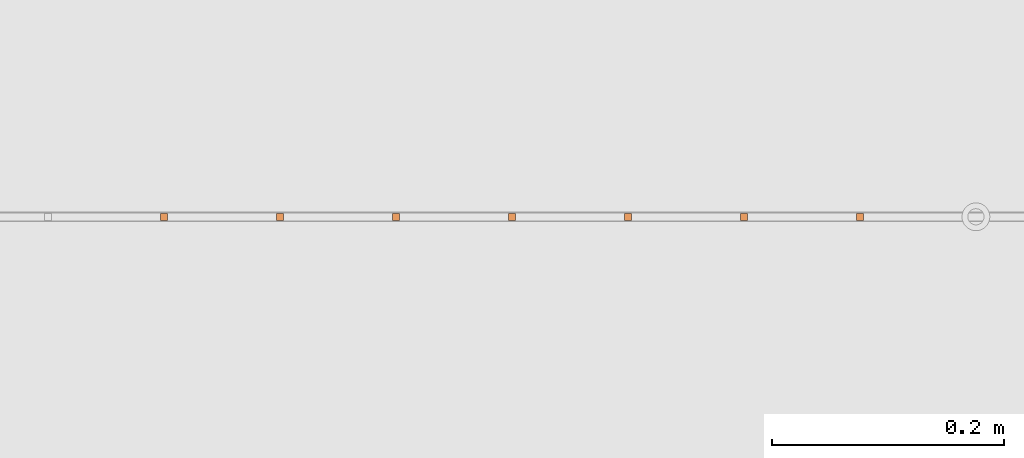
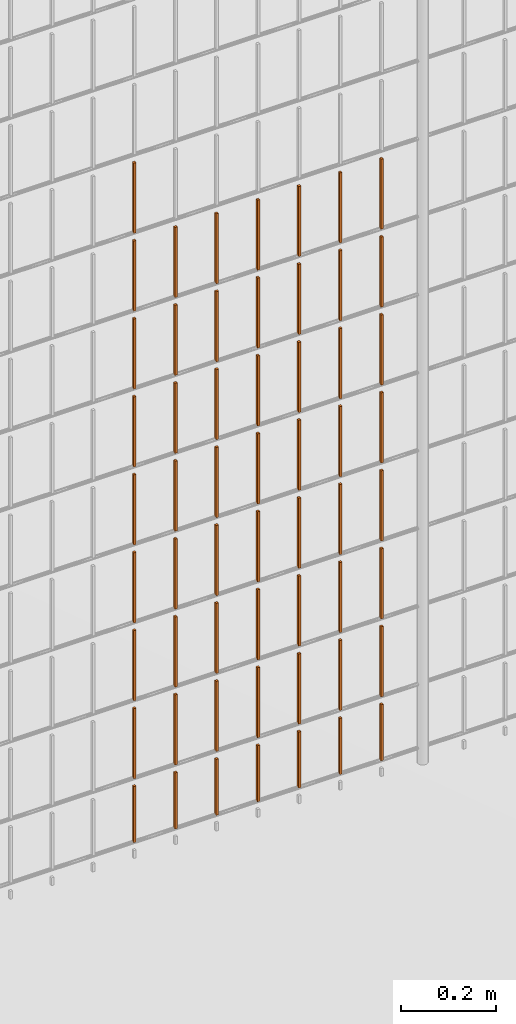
# One storey, part 245 of 1809: 57 proxies, 1 element without a shape of its own.
"""IFC2X3 building model written with IfcOpenShell, lengths in millimetres."""

from ifc_helpers import new_model, entity, si_unit, converted_unit, derived_unit, money_unit, direction, frame, origin_with_axes, place, context, subcontext, project, spatial, faceted_brep, source, transform, mapped, material, type_object, element, aggregate, save


model = new_model("IFC2X3")

# Units and contexts
model_context = context("Model", 3, precision=0.01, world=origin_with_axes(), true_north=direction((0.0, 1.0)))
body_context = subcontext(model_context, "Body", "Model", "MODEL_VIEW")
ifc_project = project(units=[si_unit("LENGTHUNIT", "METRE", prefix="MILLI"), si_unit("AREAUNIT", "SQUARE_METRE"), si_unit("VOLUMEUNIT", "CUBIC_METRE"), converted_unit("PLANEANGLEUNIT", "DEGREE", entity("IfcPlaneAngleMeasure", 0.0174532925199), si_unit("PLANEANGLEUNIT", "RADIAN"), dimensions=[0, 0, 0, 0, 0, 0, 0]), si_unit("SOLIDANGLEUNIT", "STERADIAN"), money_unit("EUR"), converted_unit("TIMEUNIT", "Year", entity("IfcTimeMeasure", 31556926.0), si_unit("TIMEUNIT", "SECOND"), dimensions=[0, 0, 1, 0, 0, 0, 0]), si_unit("MASSUNIT", "GRAM", prefix="KILO"), si_unit("THERMODYNAMICTEMPERATUREUNIT", "DEGREE_CELSIUS"), si_unit("LUMINOUSINTENSITYUNIT", "LUMEN"), si_unit("ENERGYUNIT", "JOULE", prefix="MEGA"), derived_unit("THERMALCONDUCTANCEUNIT", [(si_unit("POWERUNIT", "WATT"), 1), (si_unit("LENGTHUNIT", "METRE"), -1), (si_unit("THERMODYNAMICTEMPERATUREUNIT", "KELVIN"), -1)]), derived_unit("SPECIFICHEATCAPACITYUNIT", [(si_unit("ENERGYUNIT", "JOULE"), 1), (si_unit("MASSUNIT", "GRAM", prefix="KILO"), -1), (si_unit("THERMODYNAMICTEMPERATUREUNIT", "KELVIN"), -1)]), derived_unit("MASSDENSITYUNIT", [(si_unit("MASSUNIT", "GRAM", prefix="KILO"), 1), (si_unit("VOLUMEUNIT", "CUBIC_METRE"), -1)])], contexts=[model_context])

# Site, building, storey
site_placement = place(None, origin_with_axes())
site = spatial("IfcSite", under=ifc_project, at=site_placement, Name="Politse- ja Piirivalveameti ning Päästeameti ühishoone", CompositionType="ELEMENT")
building_placement = place(site_placement, origin_with_axes())
building = spatial("IfcBuilding", under=site, at=building_placement, Name="Politse- ja Piirivalveameti ning Päästeameti ühishoone", CompositionType="ELEMENT")
storey_placement = place(building_placement, origin_with_axes())
storey = spatial("IfcBuildingStorey", under=building, at=storey_placement, Name="Esimene korrus", CompositionType="ELEMENT", Elevation=0.0)

# Proxies
building_element_proxy_type_1 = type_object("IfcBuildingElementProxyType", Name="Railing Type", PredefinedType="NOTDEFINED")
proxy_1_placement = place(storey_placement, frame((-16775.8601056, 25156.7555964, 0.0), z_axis=(0.0, 0.0, 1.0), x_axis=(1.0, 0.0, 0.0)))
proxy_1 = element("IfcBuildingElementProxy", 1, at=proxy_1_placement, inside=storey, type_object=building_element_proxy_type_1, Name="KENNELI PIIRE")
ifc_material = material(Name="Teras - Konstruktsioon")
building_element_proxy_type_2 = type_object("IfcBuildingElementProxyType", Name="IfcBuildingElementProxy", PredefinedType="NOTDEFINED")
shared_shape_1 = source(origin_with_axes(), body_context, "Body", "Brep", [
    faceted_brep([(3.0, 3.0, 0.0), (-3.0, 3.0, 0.0), (-3.0, 3.0, 180.000012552), (3.0, 3.0, 180.000012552), (3.0, -3.0, 0.0), (-3.0, -3.0, 0.0), (-3.0, -3.0, 180.000012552), (3.0, -3.0, 180.000012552)], [[[0, 1, 2, 3]], [[0, 4, 5, 1]], [[1, 5, 6, 2]], [[3, 2, 6, 7]], [[4, 0, 3, 7]], [[5, 4, 7, 6]]]),
])
proxy_2_placement = place(proxy_1_placement, frame((-3082.26655065, -16068.8402798, 403.999987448), z_axis=(0.0, 0.0, 1.0), x_axis=(1.0, 0.0, 0.0)))
proxy_2 = element("IfcBuildingElementProxy", 2, at=proxy_2_placement, type_object=building_element_proxy_type_2, material=ifc_material, Name="BALUSTER - 001", context=body_context, shape_type="MappedRepresentation", body=[
    mapped(shared_shape_1, transform((0.0, 0.0, 0.0), x_axis=(0.0, -1.0, 0.0), y_axis=(1.0, 0.0, 0.0), z_axis=(0.0, 0.0, 1.0))),
])
proxy_3_placement = place(proxy_1_placement, frame((-2982.26655065, -16068.8402798, 403.999987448), z_axis=(0.0, 0.0, 1.0), x_axis=(1.0, 0.0, 0.0)))
proxy_3 = element("IfcBuildingElementProxy", 3, at=proxy_3_placement, type_object=building_element_proxy_type_2, material=ifc_material, Name="BALUSTER - 001", context=body_context, shape_type="MappedRepresentation", body=[
    mapped(shared_shape_1, transform((0.0, 0.0, 0.0), x_axis=(0.0, -1.0, 0.0), y_axis=(1.0, 0.0, 0.0), z_axis=(0.0, 0.0, 1.0))),
])
proxy_4_placement = place(proxy_1_placement, frame((-2882.26655065, -16068.8402798, 403.999987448), z_axis=(0.0, 0.0, 1.0), x_axis=(1.0, 0.0, 0.0)))
proxy_4 = element("IfcBuildingElementProxy", 4, at=proxy_4_placement, type_object=building_element_proxy_type_2, material=ifc_material, Name="BALUSTER - 001", context=body_context, shape_type="MappedRepresentation", body=[
    mapped(shared_shape_1, transform((0.0, 0.0, 0.0), x_axis=(0.0, -1.0, 0.0), y_axis=(1.0, 0.0, 0.0), z_axis=(0.0, 0.0, 1.0))),
])
proxy_5_placement = place(proxy_1_placement, frame((-2782.26655065, -16068.8402798, 403.999987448), z_axis=(0.0, 0.0, 1.0), x_axis=(1.0, 0.0, 0.0)))
proxy_5 = element("IfcBuildingElementProxy", 5, at=proxy_5_placement, type_object=building_element_proxy_type_2, material=ifc_material, Name="BALUSTER - 001", context=body_context, shape_type="MappedRepresentation", body=[
    mapped(shared_shape_1, transform((0.0, 0.0, 0.0), x_axis=(0.0, -1.0, 0.0), y_axis=(1.0, 0.0, 0.0), z_axis=(0.0, 0.0, 1.0))),
])
proxy_6_placement = place(proxy_1_placement, frame((-2682.26655065, -16068.8402798, 403.999987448), z_axis=(0.0, 0.0, 1.0), x_axis=(1.0, 0.0, 0.0)))
proxy_6 = element("IfcBuildingElementProxy", 6, at=proxy_6_placement, type_object=building_element_proxy_type_2, material=ifc_material, Name="BALUSTER - 001", context=body_context, shape_type="MappedRepresentation", body=[
    mapped(shared_shape_1, transform((0.0, 0.0, 0.0), x_axis=(0.0, -1.0, 0.0), y_axis=(1.0, 0.0, 0.0), z_axis=(0.0, 0.0, 1.0))),
])
proxy_7_placement = place(proxy_1_placement, frame((-2582.26655065, -16068.8402798, 403.999987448), z_axis=(0.0, 0.0, 1.0), x_axis=(1.0, 0.0, 0.0)))
proxy_7 = element("IfcBuildingElementProxy", 7, at=proxy_7_placement, type_object=building_element_proxy_type_2, material=ifc_material, Name="BALUSTER - 001", context=body_context, shape_type="MappedRepresentation", body=[
    mapped(shared_shape_1, transform((0.0, 0.0, 0.0), x_axis=(0.0, -1.0, 0.0), y_axis=(1.0, 0.0, 0.0), z_axis=(0.0, 0.0, 1.0))),
])
proxy_8_placement = place(proxy_1_placement, frame((-2482.26655065, -16068.8402798, 403.999987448), z_axis=(0.0, 0.0, 1.0), x_axis=(1.0, 0.0, 0.0)))
proxy_8 = element("IfcBuildingElementProxy", 8, at=proxy_8_placement, type_object=building_element_proxy_type_2, material=ifc_material, Name="BALUSTER - 001", context=body_context, shape_type="MappedRepresentation", body=[
    mapped(shared_shape_1, transform((0.0, 0.0, 0.0), x_axis=(0.0, -1.0, 0.0), y_axis=(1.0, 0.0, 0.0), z_axis=(0.0, 0.0, 1.0))),
])
proxy_9_placement = place(proxy_1_placement, frame((-3082.26655065, -16068.8402798, 803.999987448), z_axis=(0.0, 0.0, 1.0), x_axis=(1.0, 0.0, 0.0)))
proxy_9 = element("IfcBuildingElementProxy", 9, at=proxy_9_placement, type_object=building_element_proxy_type_2, material=ifc_material, Name="BALUSTER - 001", context=body_context, shape_type="MappedRepresentation", body=[
    mapped(shared_shape_1, transform((0.0, 0.0, 0.0), x_axis=(0.0, -1.0, 0.0), y_axis=(1.0, 0.0, 0.0), z_axis=(0.0, 0.0, 1.0))),
])
proxy_10_placement = place(proxy_1_placement, frame((-2982.26655065, -16068.8402798, 803.999987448), z_axis=(0.0, 0.0, 1.0), x_axis=(1.0, 0.0, 0.0)))
proxy_10 = element("IfcBuildingElementProxy", 10, at=proxy_10_placement, type_object=building_element_proxy_type_2, material=ifc_material, Name="BALUSTER - 001", context=body_context, shape_type="MappedRepresentation", body=[
    mapped(shared_shape_1, transform((0.0, 0.0, 0.0), x_axis=(0.0, -1.0, 0.0), y_axis=(1.0, 0.0, 0.0), z_axis=(0.0, 0.0, 1.0))),
])
proxy_11_placement = place(proxy_1_placement, frame((-2882.26655065, -16068.8402798, 803.999987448), z_axis=(0.0, 0.0, 1.0), x_axis=(1.0, 0.0, 0.0)))
proxy_11 = element("IfcBuildingElementProxy", 11, at=proxy_11_placement, type_object=building_element_proxy_type_2, material=ifc_material, Name="BALUSTER - 001", context=body_context, shape_type="MappedRepresentation", body=[
    mapped(shared_shape_1, transform((0.0, 0.0, 0.0), x_axis=(0.0, -1.0, 0.0), y_axis=(1.0, 0.0, 0.0), z_axis=(0.0, 0.0, 1.0))),
])
proxy_12_placement = place(proxy_1_placement, frame((-2782.26655065, -16068.8402798, 803.999987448), z_axis=(0.0, 0.0, 1.0), x_axis=(1.0, 0.0, 0.0)))
proxy_12 = element("IfcBuildingElementProxy", 12, at=proxy_12_placement, type_object=building_element_proxy_type_2, material=ifc_material, Name="BALUSTER - 001", context=body_context, shape_type="MappedRepresentation", body=[
    mapped(shared_shape_1, transform((0.0, 0.0, 0.0), x_axis=(0.0, -1.0, 0.0), y_axis=(1.0, 0.0, 0.0), z_axis=(0.0, 0.0, 1.0))),
])
proxy_13_placement = place(proxy_1_placement, frame((-2682.26655065, -16068.8402798, 803.999987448), z_axis=(0.0, 0.0, 1.0), x_axis=(1.0, 0.0, 0.0)))
proxy_13 = element("IfcBuildingElementProxy", 13, at=proxy_13_placement, type_object=building_element_proxy_type_2, material=ifc_material, Name="BALUSTER - 001", context=body_context, shape_type="MappedRepresentation", body=[
    mapped(shared_shape_1, transform((0.0, 0.0, 0.0), x_axis=(0.0, -1.0, 0.0), y_axis=(1.0, 0.0, 0.0), z_axis=(0.0, 0.0, 1.0))),
])
proxy_14_placement = place(proxy_1_placement, frame((-2582.26655065, -16068.8402798, 803.999987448), z_axis=(0.0, 0.0, 1.0), x_axis=(1.0, 0.0, 0.0)))
proxy_14 = element("IfcBuildingElementProxy", 14, at=proxy_14_placement, type_object=building_element_proxy_type_2, material=ifc_material, Name="BALUSTER - 001", context=body_context, shape_type="MappedRepresentation", body=[
    mapped(shared_shape_1, transform((0.0, 0.0, 0.0), x_axis=(0.0, -1.0, 0.0), y_axis=(1.0, 0.0, 0.0), z_axis=(0.0, 0.0, 1.0))),
])
proxy_15_placement = place(proxy_1_placement, frame((-2482.26655065, -16068.8402798, 803.999987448), z_axis=(0.0, 0.0, 1.0), x_axis=(1.0, 0.0, 0.0)))
proxy_15 = element("IfcBuildingElementProxy", 15, at=proxy_15_placement, type_object=building_element_proxy_type_2, material=ifc_material, Name="BALUSTER - 001", context=body_context, shape_type="MappedRepresentation", body=[
    mapped(shared_shape_1, transform((0.0, 0.0, 0.0), x_axis=(0.0, -1.0, 0.0), y_axis=(1.0, 0.0, 0.0), z_axis=(0.0, 0.0, 1.0))),
])
proxy_16_placement = place(proxy_1_placement, frame((-3082.26655065, -16068.8402798, 1003.99998745), z_axis=(0.0, 0.0, 1.0), x_axis=(1.0, 0.0, 0.0)))
proxy_16 = element("IfcBuildingElementProxy", 16, at=proxy_16_placement, type_object=building_element_proxy_type_2, material=ifc_material, Name="BALUSTER - 001", context=body_context, shape_type="MappedRepresentation", body=[
    mapped(shared_shape_1, transform((0.0, 0.0, 0.0), x_axis=(0.0, -1.0, 0.0), y_axis=(1.0, 0.0, 0.0), z_axis=(0.0, 0.0, 1.0))),
])
proxy_17_placement = place(proxy_1_placement, frame((-2982.26655065, -16068.8402798, 1003.99998745), z_axis=(0.0, 0.0, 1.0), x_axis=(1.0, 0.0, 0.0)))
proxy_17 = element("IfcBuildingElementProxy", 17, at=proxy_17_placement, type_object=building_element_proxy_type_2, material=ifc_material, Name="BALUSTER - 001", context=body_context, shape_type="MappedRepresentation", body=[
    mapped(shared_shape_1, transform((0.0, 0.0, 0.0), x_axis=(0.0, -1.0, 0.0), y_axis=(1.0, 0.0, 0.0), z_axis=(0.0, 0.0, 1.0))),
])
proxy_18_placement = place(proxy_1_placement, frame((-2882.26655065, -16068.8402798, 1003.99998745), z_axis=(0.0, 0.0, 1.0), x_axis=(1.0, 0.0, 0.0)))
proxy_18 = element("IfcBuildingElementProxy", 18, at=proxy_18_placement, type_object=building_element_proxy_type_2, material=ifc_material, Name="BALUSTER - 001", context=body_context, shape_type="MappedRepresentation", body=[
    mapped(shared_shape_1, transform((0.0, 0.0, 0.0), x_axis=(0.0, -1.0, 0.0), y_axis=(1.0, 0.0, 0.0), z_axis=(0.0, 0.0, 1.0))),
])
proxy_19_placement = place(proxy_1_placement, frame((-2782.26655065, -16068.8402798, 1003.99998745), z_axis=(0.0, 0.0, 1.0), x_axis=(1.0, 0.0, 0.0)))
proxy_19 = element("IfcBuildingElementProxy", 19, at=proxy_19_placement, type_object=building_element_proxy_type_2, material=ifc_material, Name="BALUSTER - 001", context=body_context, shape_type="MappedRepresentation", body=[
    mapped(shared_shape_1, transform((0.0, 0.0, 0.0), x_axis=(0.0, -1.0, 0.0), y_axis=(1.0, 0.0, 0.0), z_axis=(0.0, 0.0, 1.0))),
])
proxy_20_placement = place(proxy_1_placement, frame((-2682.26655065, -16068.8402798, 1003.99998745), z_axis=(0.0, 0.0, 1.0), x_axis=(1.0, 0.0, 0.0)))
proxy_20 = element("IfcBuildingElementProxy", 20, at=proxy_20_placement, type_object=building_element_proxy_type_2, material=ifc_material, Name="BALUSTER - 001", context=body_context, shape_type="MappedRepresentation", body=[
    mapped(shared_shape_1, transform((0.0, 0.0, 0.0), x_axis=(0.0, -1.0, 0.0), y_axis=(1.0, 0.0, 0.0), z_axis=(0.0, 0.0, 1.0))),
])
proxy_21_placement = place(proxy_1_placement, frame((-2582.26655065, -16068.8402798, 1003.99998745), z_axis=(0.0, 0.0, 1.0), x_axis=(1.0, 0.0, 0.0)))
proxy_21 = element("IfcBuildingElementProxy", 21, at=proxy_21_placement, type_object=building_element_proxy_type_2, material=ifc_material, Name="BALUSTER - 001", context=body_context, shape_type="MappedRepresentation", body=[
    mapped(shared_shape_1, transform((0.0, 0.0, 0.0), x_axis=(0.0, -1.0, 0.0), y_axis=(1.0, 0.0, 0.0), z_axis=(0.0, 0.0, 1.0))),
])
proxy_22_placement = place(proxy_1_placement, frame((-2482.26655065, -16068.8402798, 1003.99998745), z_axis=(0.0, 0.0, 1.0), x_axis=(1.0, 0.0, 0.0)))
proxy_22 = element("IfcBuildingElementProxy", 22, at=proxy_22_placement, type_object=building_element_proxy_type_2, material=ifc_material, Name="BALUSTER - 001", context=body_context, shape_type="MappedRepresentation", body=[
    mapped(shared_shape_1, transform((0.0, 0.0, 0.0), x_axis=(0.0, -1.0, 0.0), y_axis=(1.0, 0.0, 0.0), z_axis=(0.0, 0.0, 1.0))),
])
shared_shape_2 = source(origin_with_axes(), body_context, "Body", "Brep", [
    faceted_brep([(3.0, 3.0, 0.0), (-3.0, 3.0, 0.0), (-3.0, 3.0, 144.000012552), (3.0, 3.0, 144.000012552), (3.0, -3.0, 0.0), (-3.0, -3.0, 0.0), (-3.0, -3.0, 144.000012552), (3.0, -3.0, 144.000012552)], [[[0, 1, 2, 3]], [[0, 4, 5, 1]], [[1, 5, 6, 2]], [[3, 2, 6, 7]], [[4, 0, 3, 7]], [[5, 4, 7, 6]]]),
])
proxy_23_placement = place(proxy_1_placement, frame((-3082.26655065, -16068.8402798, 39.9999874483), z_axis=(0.0, 0.0, 1.0), x_axis=(1.0, 0.0, 0.0)))
proxy_23 = element("IfcBuildingElementProxy", 23, at=proxy_23_placement, type_object=building_element_proxy_type_2, material=ifc_material, Name="BALUSTER - 001", context=body_context, shape_type="MappedRepresentation", body=[
    mapped(shared_shape_2, transform((0.0, 0.0, 0.0), x_axis=(0.0, -1.0, 0.0), y_axis=(1.0, 0.0, 0.0), z_axis=(0.0, 0.0, 1.0))),
])
proxy_24_placement = place(proxy_1_placement, frame((-2982.26655065, -16068.8402798, 39.9999874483), z_axis=(0.0, 0.0, 1.0), x_axis=(1.0, 0.0, 0.0)))
proxy_24 = element("IfcBuildingElementProxy", 24, at=proxy_24_placement, type_object=building_element_proxy_type_2, material=ifc_material, Name="BALUSTER - 001", context=body_context, shape_type="MappedRepresentation", body=[
    mapped(shared_shape_2, transform((0.0, 0.0, 0.0), x_axis=(0.0, -1.0, 0.0), y_axis=(1.0, 0.0, 0.0), z_axis=(0.0, 0.0, 1.0))),
])
proxy_25_placement = place(proxy_1_placement, frame((-2882.26655065, -16068.8402798, 39.9999874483), z_axis=(0.0, 0.0, 1.0), x_axis=(1.0, 0.0, 0.0)))
proxy_25 = element("IfcBuildingElementProxy", 25, at=proxy_25_placement, type_object=building_element_proxy_type_2, material=ifc_material, Name="BALUSTER - 001", context=body_context, shape_type="MappedRepresentation", body=[
    mapped(shared_shape_2, transform((0.0, 0.0, 0.0), x_axis=(0.0, -1.0, 0.0), y_axis=(1.0, 0.0, 0.0), z_axis=(0.0, 0.0, 1.0))),
])
proxy_26_placement = place(proxy_1_placement, frame((-2782.26655065, -16068.8402798, 39.9999874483), z_axis=(0.0, 0.0, 1.0), x_axis=(1.0, 0.0, 0.0)))
proxy_26 = element("IfcBuildingElementProxy", 26, at=proxy_26_placement, type_object=building_element_proxy_type_2, material=ifc_material, Name="BALUSTER - 001", context=body_context, shape_type="MappedRepresentation", body=[
    mapped(shared_shape_2, transform((0.0, 0.0, 0.0), x_axis=(0.0, -1.0, 0.0), y_axis=(1.0, 0.0, 0.0), z_axis=(0.0, 0.0, 1.0))),
])
proxy_27_placement = place(proxy_1_placement, frame((-2682.26655065, -16068.8402798, 39.9999874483), z_axis=(0.0, 0.0, 1.0), x_axis=(1.0, 0.0, 0.0)))
proxy_27 = element("IfcBuildingElementProxy", 27, at=proxy_27_placement, type_object=building_element_proxy_type_2, material=ifc_material, Name="BALUSTER - 001", context=body_context, shape_type="MappedRepresentation", body=[
    mapped(shared_shape_2, transform((0.0, 0.0, 0.0), x_axis=(0.0, -1.0, 0.0), y_axis=(1.0, 0.0, 0.0), z_axis=(0.0, 0.0, 1.0))),
])
proxy_28_placement = place(proxy_1_placement, frame((-2582.26655065, -16068.8402798, 39.9999874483), z_axis=(0.0, 0.0, 1.0), x_axis=(1.0, 0.0, 0.0)))
proxy_28 = element("IfcBuildingElementProxy", 28, at=proxy_28_placement, type_object=building_element_proxy_type_2, material=ifc_material, Name="BALUSTER - 001", context=body_context, shape_type="MappedRepresentation", body=[
    mapped(shared_shape_2, transform((0.0, 0.0, 0.0), x_axis=(0.0, -1.0, 0.0), y_axis=(1.0, 0.0, 0.0), z_axis=(0.0, 0.0, 1.0))),
])
proxy_29_placement = place(proxy_1_placement, frame((-2482.26655065, -16068.8402798, 39.9999874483), z_axis=(0.0, 0.0, 1.0), x_axis=(1.0, 0.0, 0.0)))
proxy_29 = element("IfcBuildingElementProxy", 29, at=proxy_29_placement, type_object=building_element_proxy_type_2, material=ifc_material, Name="BALUSTER - 001", context=body_context, shape_type="MappedRepresentation", body=[
    mapped(shared_shape_2, transform((0.0, 0.0, 0.0), x_axis=(0.0, -1.0, 0.0), y_axis=(1.0, 0.0, 0.0), z_axis=(0.0, 0.0, 1.0))),
])
shared_shape_3 = source(origin_with_axes(), body_context, "Body", "Brep", [
    faceted_brep([(3.0, 3.0, 0.0), (-3.0, 3.0, 0.0), (-3.0, 3.0, 180.000012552), (3.0, 3.0, 180.000012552), (3.0, -3.0, 0.0), (-3.0, -3.0, 0.0), (-3.0, -3.0, 180.000012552), (3.0, -3.0, 180.000012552)], [[[0, 1, 2, 3]], [[0, 4, 5, 1]], [[1, 5, 6, 2]], [[3, 2, 6, 7]], [[4, 0, 3, 7]], [[5, 4, 7, 6]]]),
])
proxy_30_placement = place(proxy_1_placement, frame((-3082.26655065, -16068.8402798, 1403.99998745), z_axis=(0.0, 0.0, 1.0), x_axis=(1.0, 0.0, 0.0)))
proxy_30 = element("IfcBuildingElementProxy", 30, at=proxy_30_placement, type_object=building_element_proxy_type_2, material=ifc_material, Name="BALUSTER - 001", context=body_context, shape_type="MappedRepresentation", body=[
    mapped(shared_shape_3, transform((0.0, 0.0, 0.0), x_axis=(0.0, -1.0, 0.0), y_axis=(1.0, 0.0, 0.0), z_axis=(0.0, 0.0, 1.0))),
])
proxy_31_placement = place(proxy_1_placement, frame((-2982.26655065, -16068.8402798, 1403.99998745), z_axis=(0.0, 0.0, 1.0), x_axis=(1.0, 0.0, 0.0)))
proxy_31 = element("IfcBuildingElementProxy", 31, at=proxy_31_placement, type_object=building_element_proxy_type_2, material=ifc_material, Name="BALUSTER - 001", context=body_context, shape_type="MappedRepresentation", body=[
    mapped(shared_shape_3, transform((0.0, 0.0, 0.0), x_axis=(0.0, -1.0, 0.0), y_axis=(1.0, 0.0, 0.0), z_axis=(0.0, 0.0, 1.0))),
])
proxy_32_placement = place(proxy_1_placement, frame((-2882.26655065, -16068.8402798, 1403.99998745), z_axis=(0.0, 0.0, 1.0), x_axis=(1.0, 0.0, 0.0)))
proxy_32 = element("IfcBuildingElementProxy", 32, at=proxy_32_placement, type_object=building_element_proxy_type_2, material=ifc_material, Name="BALUSTER - 001", context=body_context, shape_type="MappedRepresentation", body=[
    mapped(shared_shape_3, transform((0.0, 0.0, 0.0), x_axis=(0.0, -1.0, 0.0), y_axis=(1.0, 0.0, 0.0), z_axis=(0.0, 0.0, 1.0))),
])
proxy_33_placement = place(proxy_1_placement, frame((-2782.26655065, -16068.8402798, 1403.99998745), z_axis=(0.0, 0.0, 1.0), x_axis=(1.0, 0.0, 0.0)))
proxy_33 = element("IfcBuildingElementProxy", 33, at=proxy_33_placement, type_object=building_element_proxy_type_2, material=ifc_material, Name="BALUSTER - 001", context=body_context, shape_type="MappedRepresentation", body=[
    mapped(shared_shape_3, transform((0.0, 0.0, 0.0), x_axis=(0.0, -1.0, 0.0), y_axis=(1.0, 0.0, 0.0), z_axis=(0.0, 0.0, 1.0))),
])
proxy_34_placement = place(proxy_1_placement, frame((-2682.26655065, -16068.8402798, 1403.99998745), z_axis=(0.0, 0.0, 1.0), x_axis=(1.0, 0.0, 0.0)))
proxy_34 = element("IfcBuildingElementProxy", 34, at=proxy_34_placement, type_object=building_element_proxy_type_2, material=ifc_material, Name="BALUSTER - 001", context=body_context, shape_type="MappedRepresentation", body=[
    mapped(shared_shape_3, transform((0.0, 0.0, 0.0), x_axis=(0.0, -1.0, 0.0), y_axis=(1.0, 0.0, 0.0), z_axis=(0.0, 0.0, 1.0))),
])
proxy_35_placement = place(proxy_1_placement, frame((-2582.26655065, -16068.8402798, 1403.99998745), z_axis=(0.0, 0.0, 1.0), x_axis=(1.0, 0.0, 0.0)))
proxy_35 = element("IfcBuildingElementProxy", 35, at=proxy_35_placement, type_object=building_element_proxy_type_2, material=ifc_material, Name="BALUSTER - 001", context=body_context, shape_type="MappedRepresentation", body=[
    mapped(shared_shape_3, transform((0.0, 0.0, 0.0), x_axis=(0.0, -1.0, 0.0), y_axis=(1.0, 0.0, 0.0), z_axis=(0.0, 0.0, 1.0))),
])
proxy_36_placement = place(proxy_1_placement, frame((-2482.26655065, -16068.8402798, 1403.99998745), z_axis=(0.0, 0.0, 1.0), x_axis=(1.0, 0.0, 0.0)))
proxy_36 = element("IfcBuildingElementProxy", 36, at=proxy_36_placement, type_object=building_element_proxy_type_2, material=ifc_material, Name="BALUSTER - 001", context=body_context, shape_type="MappedRepresentation", body=[
    mapped(shared_shape_3, transform((0.0, 0.0, 0.0), x_axis=(0.0, -1.0, 0.0), y_axis=(1.0, 0.0, 0.0), z_axis=(0.0, 0.0, 1.0))),
])
shared_shape_4 = source(origin_with_axes(), body_context, "Body", "Brep", [
    faceted_brep([(3.0, 3.0, 0.0), (-3.0, 3.0, 0.0), (-3.0, 3.0, 180.000012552), (3.0, 3.0, 180.000012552), (3.0, -3.0, 0.0), (-3.0, -3.0, 0.0), (-3.0, -3.0, 180.000012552), (3.0, -3.0, 180.000012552)], [[[0, 1, 2, 3]], [[0, 4, 5, 1]], [[1, 5, 6, 2]], [[3, 2, 6, 7]], [[4, 0, 3, 7]], [[5, 4, 7, 6]]]),
])
proxy_37_placement = place(proxy_1_placement, frame((-3082.26655065, -16068.8402798, 1203.99998745), z_axis=(0.0, 0.0, 1.0), x_axis=(1.0, 0.0, 0.0)))
proxy_37 = element("IfcBuildingElementProxy", 37, at=proxy_37_placement, type_object=building_element_proxy_type_2, material=ifc_material, Name="BALUSTER - 001", context=body_context, shape_type="MappedRepresentation", body=[
    mapped(shared_shape_4, transform((0.0, 0.0, 0.0), x_axis=(0.0, -1.0, 0.0), y_axis=(1.0, 0.0, 0.0), z_axis=(0.0, 0.0, 1.0))),
])
proxy_38_placement = place(proxy_1_placement, frame((-2982.26655065, -16068.8402798, 1203.99998745), z_axis=(0.0, 0.0, 1.0), x_axis=(1.0, 0.0, 0.0)))
proxy_38 = element("IfcBuildingElementProxy", 38, at=proxy_38_placement, type_object=building_element_proxy_type_2, material=ifc_material, Name="BALUSTER - 001", context=body_context, shape_type="MappedRepresentation", body=[
    mapped(shared_shape_4, transform((0.0, 0.0, 0.0), x_axis=(0.0, -1.0, 0.0), y_axis=(1.0, 0.0, 0.0), z_axis=(0.0, 0.0, 1.0))),
])
proxy_39_placement = place(proxy_1_placement, frame((-2882.26655065, -16068.8402798, 1203.99998745), z_axis=(0.0, 0.0, 1.0), x_axis=(1.0, 0.0, 0.0)))
proxy_39 = element("IfcBuildingElementProxy", 39, at=proxy_39_placement, type_object=building_element_proxy_type_2, material=ifc_material, Name="BALUSTER - 001", context=body_context, shape_type="MappedRepresentation", body=[
    mapped(shared_shape_4, transform((0.0, 0.0, 0.0), x_axis=(0.0, -1.0, 0.0), y_axis=(1.0, 0.0, 0.0), z_axis=(0.0, 0.0, 1.0))),
])
proxy_40_placement = place(proxy_1_placement, frame((-2782.26655065, -16068.8402798, 1203.99998745), z_axis=(0.0, 0.0, 1.0), x_axis=(1.0, 0.0, 0.0)))
proxy_40 = element("IfcBuildingElementProxy", 40, at=proxy_40_placement, type_object=building_element_proxy_type_2, material=ifc_material, Name="BALUSTER - 001", context=body_context, shape_type="MappedRepresentation", body=[
    mapped(shared_shape_4, transform((0.0, 0.0, 0.0), x_axis=(0.0, -1.0, 0.0), y_axis=(1.0, 0.0, 0.0), z_axis=(0.0, 0.0, 1.0))),
])
proxy_41_placement = place(proxy_1_placement, frame((-2682.26655065, -16068.8402798, 1203.99998745), z_axis=(0.0, 0.0, 1.0), x_axis=(1.0, 0.0, 0.0)))
proxy_41 = element("IfcBuildingElementProxy", 41, at=proxy_41_placement, type_object=building_element_proxy_type_2, material=ifc_material, Name="BALUSTER - 001", context=body_context, shape_type="MappedRepresentation", body=[
    mapped(shared_shape_4, transform((0.0, 0.0, 0.0), x_axis=(0.0, -1.0, 0.0), y_axis=(1.0, 0.0, 0.0), z_axis=(0.0, 0.0, 1.0))),
])
proxy_42_placement = place(proxy_1_placement, frame((-2582.26655065, -16068.8402798, 1203.99998745), z_axis=(0.0, 0.0, 1.0), x_axis=(1.0, 0.0, 0.0)))
proxy_42 = element("IfcBuildingElementProxy", 42, at=proxy_42_placement, type_object=building_element_proxy_type_2, material=ifc_material, Name="BALUSTER - 001", context=body_context, shape_type="MappedRepresentation", body=[
    mapped(shared_shape_4, transform((0.0, 0.0, 0.0), x_axis=(0.0, -1.0, 0.0), y_axis=(1.0, 0.0, 0.0), z_axis=(0.0, 0.0, 1.0))),
])
proxy_43_placement = place(proxy_1_placement, frame((-2482.26655065, -16068.8402798, 1203.99998745), z_axis=(0.0, 0.0, 1.0), x_axis=(1.0, 0.0, 0.0)))
proxy_43 = element("IfcBuildingElementProxy", 43, at=proxy_43_placement, type_object=building_element_proxy_type_2, material=ifc_material, Name="BALUSTER - 001", context=body_context, shape_type="MappedRepresentation", body=[
    mapped(shared_shape_4, transform((0.0, 0.0, 0.0), x_axis=(0.0, -1.0, 0.0), y_axis=(1.0, 0.0, 0.0), z_axis=(0.0, 0.0, 1.0))),
])
shared_shape_5 = source(origin_with_axes(), body_context, "Body", "Brep", [
    faceted_brep([(3.0, 3.0, 0.0), (-3.0, 3.0, 0.0), (-3.0, 3.0, 180.000012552), (3.0, 3.0, 180.000012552), (3.0, -3.0, 0.0), (-3.0, -3.0, 0.0), (-3.0, -3.0, 180.000012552), (3.0, -3.0, 180.000012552)], [[[0, 1, 2, 3]], [[0, 4, 5, 1]], [[1, 5, 6, 2]], [[3, 2, 6, 7]], [[4, 0, 3, 7]], [[5, 4, 7, 6]]]),
])
proxy_44_placement = place(proxy_1_placement, frame((-3082.26655065, -16068.8402798, 203.999987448), z_axis=(0.0, 0.0, 1.0), x_axis=(1.0, 0.0, 0.0)))
proxy_44 = element("IfcBuildingElementProxy", 44, at=proxy_44_placement, type_object=building_element_proxy_type_2, material=ifc_material, Name="BALUSTER - 001", context=body_context, shape_type="MappedRepresentation", body=[
    mapped(shared_shape_5, transform((0.0, 0.0, 0.0), x_axis=(0.0, -1.0, 0.0), y_axis=(1.0, 0.0, 0.0), z_axis=(0.0, 0.0, 1.0))),
])
proxy_45_placement = place(proxy_1_placement, frame((-2982.26655065, -16068.8402798, 203.999987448), z_axis=(0.0, 0.0, 1.0), x_axis=(1.0, 0.0, 0.0)))
proxy_45 = element("IfcBuildingElementProxy", 45, at=proxy_45_placement, type_object=building_element_proxy_type_2, material=ifc_material, Name="BALUSTER - 001", context=body_context, shape_type="MappedRepresentation", body=[
    mapped(shared_shape_5, transform((0.0, 0.0, 0.0), x_axis=(0.0, -1.0, 0.0), y_axis=(1.0, 0.0, 0.0), z_axis=(0.0, 0.0, 1.0))),
])
proxy_46_placement = place(proxy_1_placement, frame((-2882.26655065, -16068.8402798, 203.999987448), z_axis=(0.0, 0.0, 1.0), x_axis=(1.0, 0.0, 0.0)))
proxy_46 = element("IfcBuildingElementProxy", 46, at=proxy_46_placement, type_object=building_element_proxy_type_2, material=ifc_material, Name="BALUSTER - 001", context=body_context, shape_type="MappedRepresentation", body=[
    mapped(shared_shape_5, transform((0.0, 0.0, 0.0), x_axis=(0.0, -1.0, 0.0), y_axis=(1.0, 0.0, 0.0), z_axis=(0.0, 0.0, 1.0))),
])
proxy_47_placement = place(proxy_1_placement, frame((-2782.26655065, -16068.8402798, 203.999987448), z_axis=(0.0, 0.0, 1.0), x_axis=(1.0, 0.0, 0.0)))
proxy_47 = element("IfcBuildingElementProxy", 47, at=proxy_47_placement, type_object=building_element_proxy_type_2, material=ifc_material, Name="BALUSTER - 001", context=body_context, shape_type="MappedRepresentation", body=[
    mapped(shared_shape_5, transform((0.0, 0.0, 0.0), x_axis=(0.0, -1.0, 0.0), y_axis=(1.0, 0.0, 0.0), z_axis=(0.0, 0.0, 1.0))),
])
proxy_48_placement = place(proxy_1_placement, frame((-2682.26655065, -16068.8402798, 203.999987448), z_axis=(0.0, 0.0, 1.0), x_axis=(1.0, 0.0, 0.0)))
proxy_48 = element("IfcBuildingElementProxy", 48, at=proxy_48_placement, type_object=building_element_proxy_type_2, material=ifc_material, Name="BALUSTER - 001", context=body_context, shape_type="MappedRepresentation", body=[
    mapped(shared_shape_5, transform((0.0, 0.0, 0.0), x_axis=(0.0, -1.0, 0.0), y_axis=(1.0, 0.0, 0.0), z_axis=(0.0, 0.0, 1.0))),
])
proxy_49_placement = place(proxy_1_placement, frame((-2582.26655065, -16068.8402798, 203.999987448), z_axis=(0.0, 0.0, 1.0), x_axis=(1.0, 0.0, 0.0)))
proxy_49 = element("IfcBuildingElementProxy", 49, at=proxy_49_placement, type_object=building_element_proxy_type_2, material=ifc_material, Name="BALUSTER - 001", context=body_context, shape_type="MappedRepresentation", body=[
    mapped(shared_shape_5, transform((0.0, 0.0, 0.0), x_axis=(0.0, -1.0, 0.0), y_axis=(1.0, 0.0, 0.0), z_axis=(0.0, 0.0, 1.0))),
])
proxy_50_placement = place(proxy_1_placement, frame((-2482.26655065, -16068.8402798, 203.999987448), z_axis=(0.0, 0.0, 1.0), x_axis=(1.0, 0.0, 0.0)))
proxy_50 = element("IfcBuildingElementProxy", 50, at=proxy_50_placement, type_object=building_element_proxy_type_2, material=ifc_material, Name="BALUSTER - 001", context=body_context, shape_type="MappedRepresentation", body=[
    mapped(shared_shape_5, transform((0.0, 0.0, 0.0), x_axis=(0.0, -1.0, 0.0), y_axis=(1.0, 0.0, 0.0), z_axis=(0.0, 0.0, 1.0))),
])
shared_shape_6 = source(origin_with_axes(), body_context, "Body", "Brep", [
    faceted_brep([(3.0, 3.0, 0.0), (-3.0, 3.0, 0.0), (-3.0, 3.0, 180.000012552), (3.0, 3.0, 180.000012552), (3.0, -3.0, 0.0), (-3.0, -3.0, 0.0), (-3.0, -3.0, 180.000012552), (3.0, -3.0, 180.000012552)], [[[0, 1, 2, 3]], [[0, 4, 5, 1]], [[1, 5, 6, 2]], [[3, 2, 6, 7]], [[4, 0, 3, 7]], [[5, 4, 7, 6]]]),
])
proxy_51_placement = place(proxy_1_placement, frame((-3082.26655065, -16068.8402798, 603.999987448), z_axis=(0.0, 0.0, 1.0), x_axis=(1.0, 0.0, 0.0)))
proxy_51 = element("IfcBuildingElementProxy", 51, at=proxy_51_placement, type_object=building_element_proxy_type_2, material=ifc_material, Name="BALUSTER - 001", context=body_context, shape_type="MappedRepresentation", body=[
    mapped(shared_shape_6, transform((0.0, 0.0, 0.0), x_axis=(0.0, -1.0, 0.0), y_axis=(1.0, 0.0, 0.0), z_axis=(0.0, 0.0, 1.0))),
])
proxy_52_placement = place(proxy_1_placement, frame((-2982.26655065, -16068.8402798, 603.999987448), z_axis=(0.0, 0.0, 1.0), x_axis=(1.0, 0.0, 0.0)))
proxy_52 = element("IfcBuildingElementProxy", 52, at=proxy_52_placement, type_object=building_element_proxy_type_2, material=ifc_material, Name="BALUSTER - 001", context=body_context, shape_type="MappedRepresentation", body=[
    mapped(shared_shape_6, transform((0.0, 0.0, 0.0), x_axis=(0.0, -1.0, 0.0), y_axis=(1.0, 0.0, 0.0), z_axis=(0.0, 0.0, 1.0))),
])
proxy_53_placement = place(proxy_1_placement, frame((-2882.26655065, -16068.8402798, 603.999987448), z_axis=(0.0, 0.0, 1.0), x_axis=(1.0, 0.0, 0.0)))
proxy_53 = element("IfcBuildingElementProxy", 53, at=proxy_53_placement, type_object=building_element_proxy_type_2, material=ifc_material, Name="BALUSTER - 001", context=body_context, shape_type="MappedRepresentation", body=[
    mapped(shared_shape_6, transform((0.0, 0.0, 0.0), x_axis=(0.0, -1.0, 0.0), y_axis=(1.0, 0.0, 0.0), z_axis=(0.0, 0.0, 1.0))),
])
proxy_54_placement = place(proxy_1_placement, frame((-2782.26655065, -16068.8402798, 603.999987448), z_axis=(0.0, 0.0, 1.0), x_axis=(1.0, 0.0, 0.0)))
proxy_54 = element("IfcBuildingElementProxy", 54, at=proxy_54_placement, type_object=building_element_proxy_type_2, material=ifc_material, Name="BALUSTER - 001", context=body_context, shape_type="MappedRepresentation", body=[
    mapped(shared_shape_6, transform((0.0, 0.0, 0.0), x_axis=(0.0, -1.0, 0.0), y_axis=(1.0, 0.0, 0.0), z_axis=(0.0, 0.0, 1.0))),
])
proxy_55_placement = place(proxy_1_placement, frame((-2682.26655065, -16068.8402798, 603.999987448), z_axis=(0.0, 0.0, 1.0), x_axis=(1.0, 0.0, 0.0)))
proxy_55 = element("IfcBuildingElementProxy", 55, at=proxy_55_placement, type_object=building_element_proxy_type_2, material=ifc_material, Name="BALUSTER - 001", context=body_context, shape_type="MappedRepresentation", body=[
    mapped(shared_shape_6, transform((0.0, 0.0, 0.0), x_axis=(0.0, -1.0, 0.0), y_axis=(1.0, 0.0, 0.0), z_axis=(0.0, 0.0, 1.0))),
])
proxy_56_placement = place(proxy_1_placement, frame((-2582.26655065, -16068.8402798, 603.999987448), z_axis=(0.0, 0.0, 1.0), x_axis=(1.0, 0.0, 0.0)))
proxy_56 = element("IfcBuildingElementProxy", 56, at=proxy_56_placement, type_object=building_element_proxy_type_2, material=ifc_material, Name="BALUSTER - 001", context=body_context, shape_type="MappedRepresentation", body=[
    mapped(shared_shape_6, transform((0.0, 0.0, 0.0), x_axis=(0.0, -1.0, 0.0), y_axis=(1.0, 0.0, 0.0), z_axis=(0.0, 0.0, 1.0))),
])
proxy_57_placement = place(proxy_1_placement, frame((-2482.26655065, -16068.8402798, 603.999987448), z_axis=(0.0, 0.0, 1.0), x_axis=(1.0, 0.0, 0.0)))
proxy_57 = element("IfcBuildingElementProxy", 57, at=proxy_57_placement, type_object=building_element_proxy_type_2, material=ifc_material, Name="BALUSTER - 001", context=body_context, shape_type="MappedRepresentation", body=[
    mapped(shared_shape_6, transform((0.0, 0.0, 0.0), x_axis=(0.0, -1.0, 0.0), y_axis=(1.0, 0.0, 0.0), z_axis=(0.0, 0.0, 1.0))),
])
shared_shape_7 = source(origin_with_axes(), body_context, "Body", "Brep", [
    faceted_brep([(3.0, 3.0, 0.0), (-3.0, 3.0, 0.0), (-3.0, 3.0, 180.000012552), (3.0, 3.0, 180.000012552), (3.0, -3.0, 0.0), (-3.0, -3.0, 0.0), (-3.0, -3.0, 180.000012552), (3.0, -3.0, 180.000012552)], [[[0, 1, 2, 3]], [[0, 4, 5, 1]], [[1, 5, 6, 2]], [[3, 2, 6, 7]], [[4, 0, 3, 7]], [[5, 4, 7, 6]]]),
])
proxy_58_placement = place(proxy_1_placement, frame((-3082.26655065, -16068.8402798, 1603.99998745), z_axis=(0.0, 0.0, 1.0), x_axis=(1.0, 0.0, 0.0)))
proxy_58 = element("IfcBuildingElementProxy", 58, at=proxy_58_placement, type_object=building_element_proxy_type_2, material=ifc_material, Name="BALUSTER - 001", context=body_context, shape_type="MappedRepresentation", body=[
    mapped(shared_shape_7, transform((0.0, 0.0, 0.0), x_axis=(0.0, -1.0, 0.0), y_axis=(1.0, 0.0, 0.0), z_axis=(0.0, 0.0, 1.0))),
])
aggregate(proxy_1, [proxy_23, proxy_24, proxy_25, proxy_26, proxy_27, proxy_28, proxy_29, proxy_44, proxy_45, proxy_46, proxy_47, proxy_48, proxy_49, proxy_50, proxy_2, proxy_3, proxy_4, proxy_5, proxy_6, proxy_7, proxy_8, proxy_51, proxy_52, proxy_53, proxy_54, proxy_55, proxy_56, proxy_57, proxy_9, proxy_10, proxy_11, proxy_12, proxy_13, proxy_14, proxy_15, proxy_16, proxy_17, proxy_18, proxy_19, proxy_20, proxy_21, proxy_22, proxy_37, proxy_38, proxy_39, proxy_40, proxy_41, proxy_42, proxy_43, proxy_30, proxy_31, proxy_32, proxy_33, proxy_34, proxy_35, proxy_36, proxy_58])

save(model, "model.ifc")
